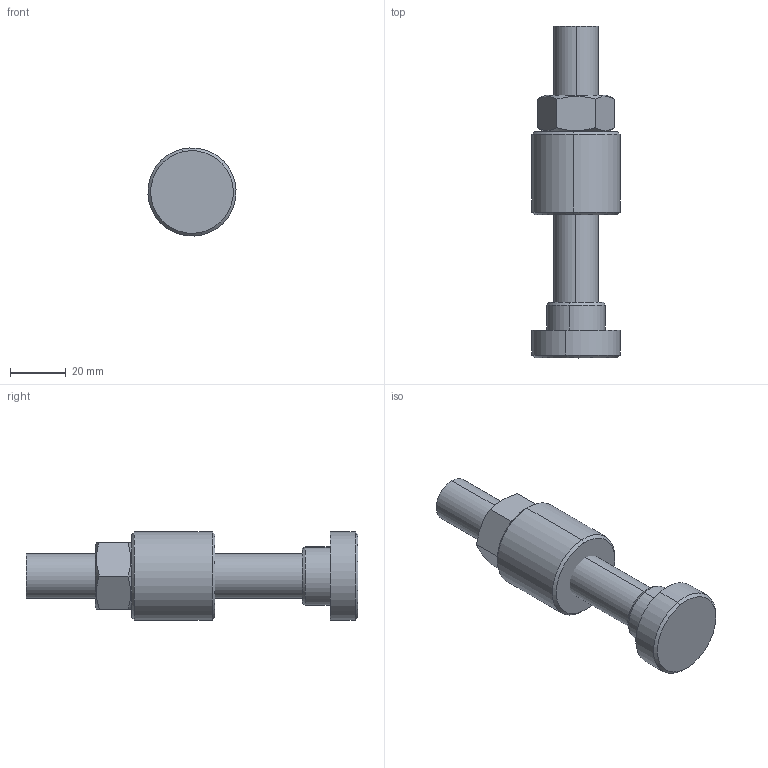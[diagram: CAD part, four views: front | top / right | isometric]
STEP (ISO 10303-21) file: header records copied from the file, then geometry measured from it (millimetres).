
FILE_DESCRIPTION (( 'STEP AP203' ), '1' );
FILE_NAME ('ARB-M16.STEP', '2014-03-05T17:32:47', ( 'Ricardo' ), ( '' ), 'SwSTEP 2.0', 'SolidWorks 2012', '' );
FILE_SCHEMA (( 'CONFIG_CONTROL_DESIGN' ));
Length unit declared in the file: millimetre
Products named in the file (5): 11.50006; ARB-M16; 20.20053; 20.20054; 20.20007
Assembly tree (4 placements, depth 2):
  ARB-M16
    20.20053
    20.20054
    11.50006
    20.20007
Bounding box: 31.7 x 119.5 x 31.7 mm (x, y, z)
Volume: 53836.1 mm3; surface area: 17582.9 mm2
Topology: 4 solids, 4 shells, 54 faces, 114 edges, 69 vertices
Faces by surface type: cone 22, cylinder 16, plane 16
Entity records: 2075 total; most frequent: CARTESIAN_POINT 374, DIRECTION 278, ORIENTED_EDGE 224, AXIS2_PLACEMENT_3D 117, EDGE_CURVE 112, VERTEX_POINT 69, EDGE_LOOP 61, CIRCLE 56
